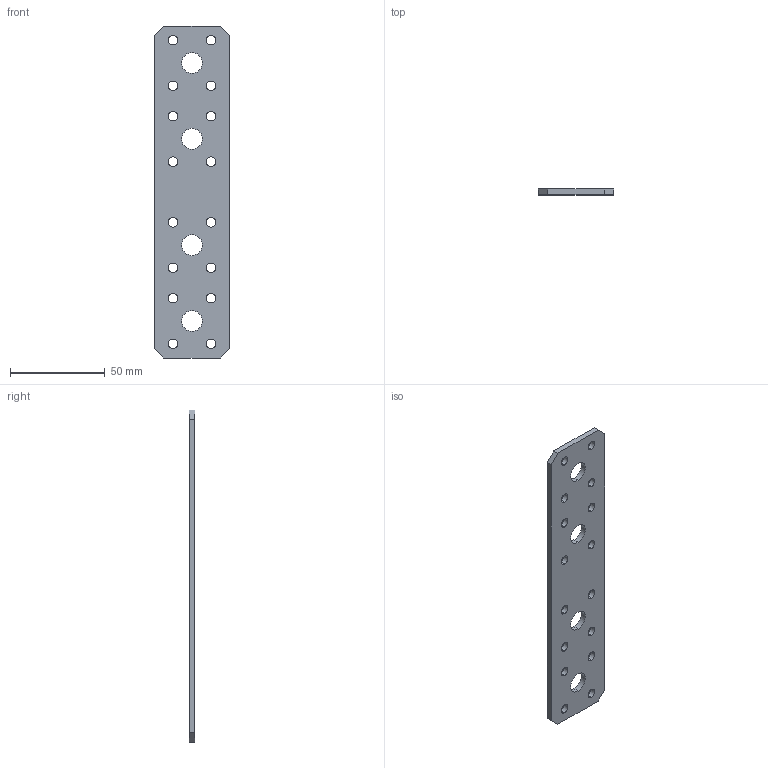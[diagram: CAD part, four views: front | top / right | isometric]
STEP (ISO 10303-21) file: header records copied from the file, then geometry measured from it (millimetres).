
FILE_DESCRIPTION (( 'STEP AP203' ), '1' );
FILE_NAME ('184.STEP', '2019-12-10T10:32:44', ( '' ), ( '' ), 'SwSTEP 2.0', 'SolidWorks 2013', '' );
FILE_SCHEMA (( 'CONFIG_CONTROL_DESIGN' ));
Length unit declared in the file: millimetre
Products named in the file (1): 184
Bounding box: 40 x 3 x 175 mm (x, y, z)
Volume: 18767.1 mm3; surface area: 14934.9 mm2
Topology: 1 solids, 1 shells, 50 faces, 144 edges, 96 vertices
Faces by surface type: cylinder 40, plane 10
Entity records: 1845 total; most frequent: DIRECTION 326, CARTESIAN_POINT 291, ORIENTED_EDGE 288, EDGE_CURVE 144, AXIS2_PLACEMENT_3D 131, VERTEX_POINT 96, EDGE_LOOP 90, CIRCLE 80
